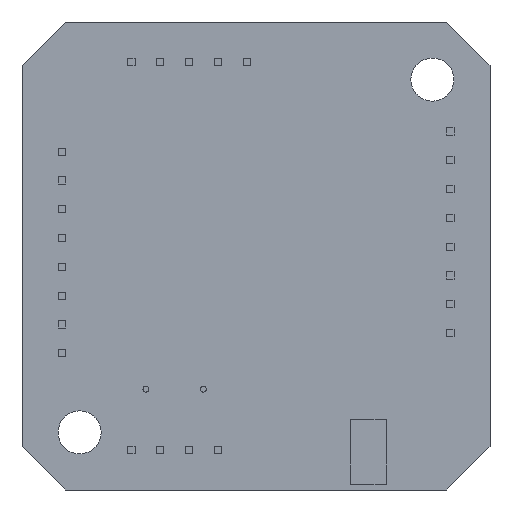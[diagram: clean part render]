
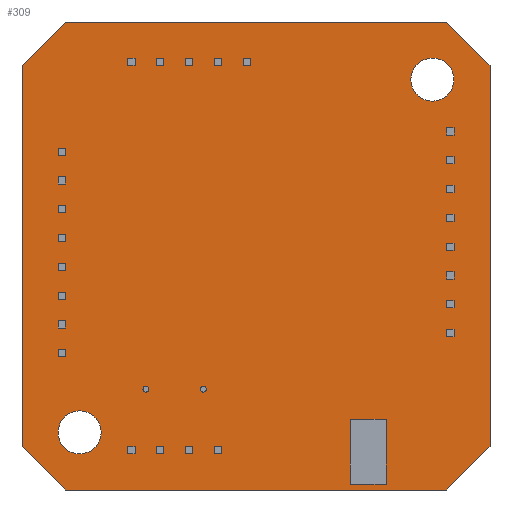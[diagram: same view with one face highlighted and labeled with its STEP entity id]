
A CAD part, front view. The second image highlights one B-rep face of the part: STEP entity #309.
In plain terms, the highlighted planar face has unit normal (0, -1, 0).
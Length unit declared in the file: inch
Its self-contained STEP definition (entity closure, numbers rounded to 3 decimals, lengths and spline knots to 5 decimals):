
#2=DIRECTION('',(0.707,0.,0.707));
#3=VECTOR('',#2,0.21213);
#4=CARTESIAN_POINT('',(1.475,0.,-1.625));
#5=LINE('',#4,#3);
#6=DIRECTION('',(-1.,0.,0.));
#7=VECTOR('',#6,1.325);
#8=CARTESIAN_POINT('',(1.475,0.,-1.625));
#9=LINE('',#8,#7);
#10=DIRECTION('',(0.707,0.,-0.707));
#11=VECTOR('',#10,0.21213);
#12=CARTESIAN_POINT('',(0.,0.,-1.475));
#13=LINE('',#12,#11);
#14=DIRECTION('',(0.,0.,1.));
#15=VECTOR('',#14,1.325);
#16=CARTESIAN_POINT('',(0.,0.,-1.475));
#17=LINE('',#16,#15);
#18=DIRECTION('',(-0.707,0.,-0.707));
#19=VECTOR('',#18,0.21213);
#20=CARTESIAN_POINT('',(0.15,0.,0.));
#21=LINE('',#20,#19);
#22=DIRECTION('',(1.,0.,0.));
#23=VECTOR('',#22,1.325);
#24=CARTESIAN_POINT('',(0.15,0.,0.));
#25=LINE('',#24,#23);
#26=DIRECTION('',(-0.707,0.,0.707));
#27=VECTOR('',#26,0.21213);
#28=CARTESIAN_POINT('',(1.625,0.,-0.15));
#29=LINE('',#28,#27);
#30=DIRECTION('',(0.,0.,-1.));
#31=VECTOR('',#30,1.325);
#32=CARTESIAN_POINT('',(1.625,0.,-0.15));
#33=LINE('',#32,#31);
#34=CARTESIAN_POINT('',(0.2,0.,-1.425));
#35=DIRECTION('',(0.,1.,0.));
#36=DIRECTION('',(1.,0.,0.));
#37=AXIS2_PLACEMENT_3D('',#34,#35,#36);
#39=CARTESIAN_POINT('',(0.2,0.,-1.425));
#40=DIRECTION('',(0.,1.,0.));
#41=DIRECTION('',(-1.,0.,0.));
#42=AXIS2_PLACEMENT_3D('',#39,#40,#41);
#44=CARTESIAN_POINT('',(1.425,0.,-0.2));
#45=DIRECTION('',(0.,1.,0.));
#46=DIRECTION('',(1.,0.,0.));
#47=AXIS2_PLACEMENT_3D('',#44,#45,#46);
#49=CARTESIAN_POINT('',(1.425,0.,-0.2));
#50=DIRECTION('',(0.,1.,0.));
#51=DIRECTION('',(-1.,0.,0.));
#52=AXIS2_PLACEMENT_3D('',#49,#50,#51);
#210=CARTESIAN_POINT('',(1.475,0.,-1.625));
#211=CARTESIAN_POINT('',(1.625,0.,-1.475));
#212=VERTEX_POINT('',#210);
#213=VERTEX_POINT('',#211);
#218=CARTESIAN_POINT('',(0.,0.,-1.475));
#219=CARTESIAN_POINT('',(0.15,0.,-1.625));
#220=VERTEX_POINT('',#218);
#221=VERTEX_POINT('',#219);
#226=CARTESIAN_POINT('',(0.15,0.,0.));
#227=CARTESIAN_POINT('',(0.,0.,-0.15));
#228=VERTEX_POINT('',#226);
#229=VERTEX_POINT('',#227);
#234=CARTESIAN_POINT('',(1.625,0.,-0.15));
#235=CARTESIAN_POINT('',(1.475,0.,0.));
#236=VERTEX_POINT('',#234);
#237=VERTEX_POINT('',#235);
#242=CARTESIAN_POINT('',(0.27477,0.,-1.425));
#243=CARTESIAN_POINT('',(0.12523,0.,-1.425));
#244=VERTEX_POINT('',#242);
#245=VERTEX_POINT('',#243);
#246=CARTESIAN_POINT('',(1.49977,0.,-0.2));
#247=CARTESIAN_POINT('',(1.35023,0.,-0.2));
#248=VERTEX_POINT('',#246);
#249=VERTEX_POINT('',#247);
#274=CARTESIAN_POINT('',(0.,0.,0.));
#275=DIRECTION('',(0.,1.,0.));
#276=DIRECTION('',(1.,0.,0.));
#277=AXIS2_PLACEMENT_3D('',#274,#275,#276);
#278=PLANE('',#277);
#280=ORIENTED_EDGE('',*,*,#279,.F.);
#282=ORIENTED_EDGE('',*,*,#281,.T.);
#284=ORIENTED_EDGE('',*,*,#283,.F.);
#286=ORIENTED_EDGE('',*,*,#285,.T.);
#288=ORIENTED_EDGE('',*,*,#287,.F.);
#290=ORIENTED_EDGE('',*,*,#289,.T.);
#292=ORIENTED_EDGE('',*,*,#291,.F.);
#294=ORIENTED_EDGE('',*,*,#293,.T.);
#295=EDGE_LOOP('',(#280,#282,#284,#286,#288,#290,#292,#294));
#296=FACE_OUTER_BOUND('',#295,.F.);
#298=ORIENTED_EDGE('',*,*,#297,.F.);
#300=ORIENTED_EDGE('',*,*,#299,.F.);
#301=EDGE_LOOP('',(#298,#300));
#302=FACE_BOUND('',#301,.F.);
#304=ORIENTED_EDGE('',*,*,#303,.F.);
#306=ORIENTED_EDGE('',*,*,#305,.F.);
#307=EDGE_LOOP('',(#304,#306));
#308=FACE_BOUND('',#307,.F.);
#309=ADVANCED_FACE('',(#296,#302,#308),#278,.F.);
#38=CIRCLE('',#37,0.07477);
#43=CIRCLE('',#42,0.07477);
#48=CIRCLE('',#47,0.07477);
#53=CIRCLE('',#52,0.07477);
#279=EDGE_CURVE('',#212,#213,#5,.T.);
#281=EDGE_CURVE('',#212,#221,#9,.T.);
#283=EDGE_CURVE('',#220,#221,#13,.T.);
#285=EDGE_CURVE('',#220,#229,#17,.T.);
#287=EDGE_CURVE('',#228,#229,#21,.T.);
#289=EDGE_CURVE('',#228,#237,#25,.T.);
#291=EDGE_CURVE('',#236,#237,#29,.T.);
#293=EDGE_CURVE('',#236,#213,#33,.T.);
#297=EDGE_CURVE('',#244,#245,#38,.T.);
#299=EDGE_CURVE('',#245,#244,#43,.T.);
#303=EDGE_CURVE('',#248,#249,#48,.T.);
#305=EDGE_CURVE('',#249,#248,#53,.T.);
